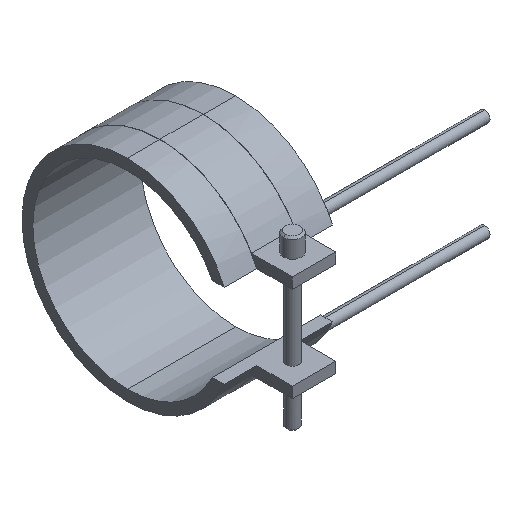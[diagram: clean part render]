
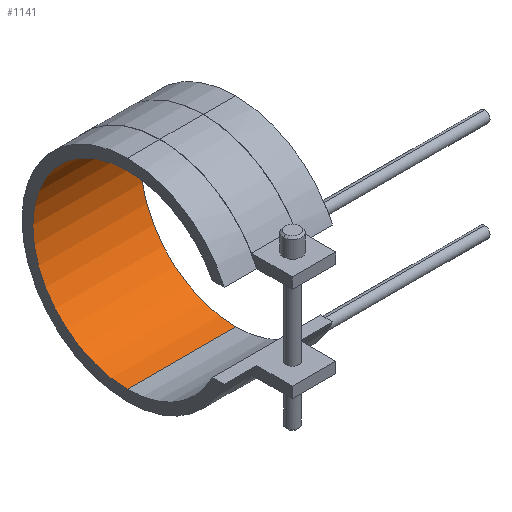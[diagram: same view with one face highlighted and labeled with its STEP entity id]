
A CAD part, isometric view. The second image highlights one B-rep face of the part: STEP entity #1141.
In plain terms, the highlighted cylindrical face has radius 35 mm (diameter 70 mm), a partial arc.
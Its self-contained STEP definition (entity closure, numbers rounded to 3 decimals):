
#822=CARTESIAN_POINT('Vertex',(-20.,0.,-35.)) ;
#829=CARTESIAN_POINT('Vertex',(20.,0.,-35.)) ;
#832=CARTESIAN_POINT('Line Origine',(20.,0.,-35.)) ;
#850=CARTESIAN_POINT('Axis2P3D Location',(-20.,0.,0.)) ;
#854=CARTESIAN_POINT('Vertex',(-20.,0.,35.)) ;
#911=CARTESIAN_POINT('Vertex',(20.,0.,35.)) ;
#921=CARTESIAN_POINT('Line Origine',(20.,0.,35.)) ;
#1012=CARTESIAN_POINT('Axis2P3D Location',(20.,0.,0.)) ;
#1130=CARTESIAN_POINT('Axis2P3D Location',(20.,0.,0.)) ;
#833=DIRECTION('Vector Direction',(1.,0.,0.)) ;
#851=DIRECTION('Axis2P3D Direction',(1.,0.,0.)) ;
#922=DIRECTION('Vector Direction',(1.,0.,0.)) ;
#1013=DIRECTION('Axis2P3D Direction',(1.,0.,0.)) ;
#1131=DIRECTION('Axis2P3D Direction',(1.,0.,-0.)) ;
#1132=DIRECTION('Axis2P3D XDirection',(0.,0.,-1.)) ;
#852=AXIS2_PLACEMENT_3D('Circle Axis2P3D',#850,#851,$) ;
#1014=AXIS2_PLACEMENT_3D('Circle Axis2P3D',#1012,#1013,$) ;
#1133=AXIS2_PLACEMENT_3D('Cylinder Axis2P3D',#1130,#1131,#1132) ;
#1136=ORIENTED_EDGE('',*,*,#1016,.T.) ;
#1137=ORIENTED_EDGE('',*,*,#925,.T.) ;
#1138=ORIENTED_EDGE('',*,*,#856,.F.) ;
#1139=ORIENTED_EDGE('',*,*,#836,.T.) ;
#834=VECTOR('Line Direction',#833,1.) ;
#923=VECTOR('Line Direction',#922,1.) ;
#1141=ADVANCED_FACE('14070040',(#1140),#1134,.F.) ;
#853=CIRCLE('generated circle',#852,35.) ;
#1015=CIRCLE('generated circle',#1014,35.) ;
#1134=CYLINDRICAL_SURFACE('generated cylinder',#1133,35.) ;
#836=EDGE_CURVE('',#823,#830,#835,.T.) ;
#856=EDGE_CURVE('',#823,#855,#853,.T.) ;
#925=EDGE_CURVE('',#912,#855,#924,.F.) ;
#1016=EDGE_CURVE('',#830,#912,#1015,.T.) ;
#1135=EDGE_LOOP('',(#1136,#1137,#1138,#1139)) ;
#1140=FACE_OUTER_BOUND('',#1135,.T.) ;
#835=LINE('Line',#832,#834) ;
#924=LINE('Line',#921,#923) ;
#823=VERTEX_POINT('',#822) ;
#830=VERTEX_POINT('',#829) ;
#855=VERTEX_POINT('',#854) ;
#912=VERTEX_POINT('',#911) ;
